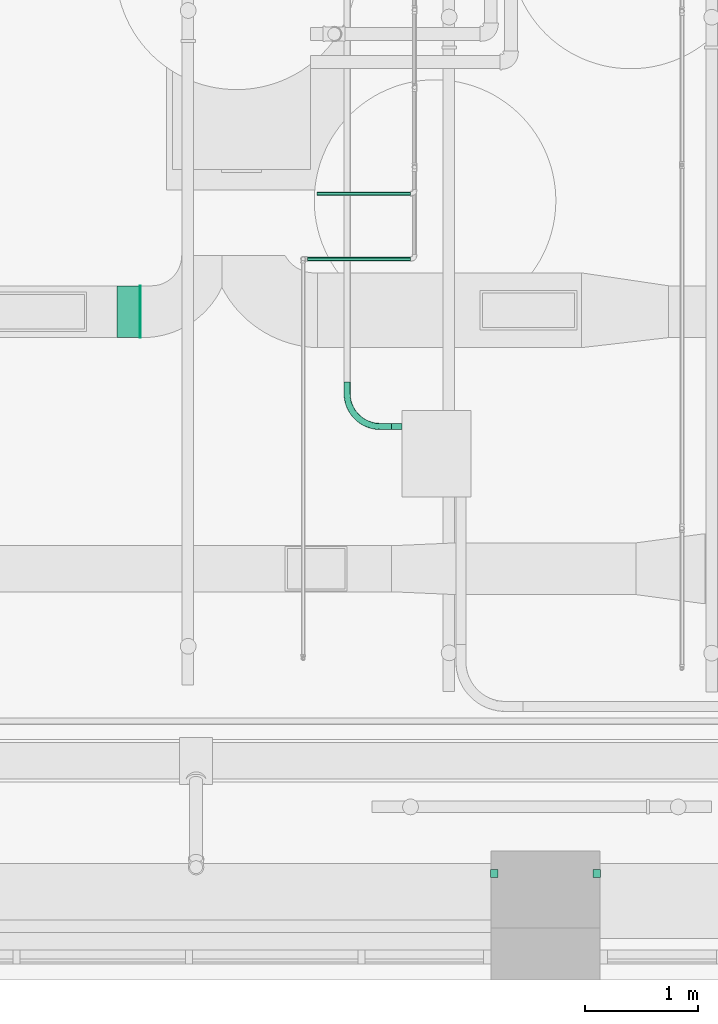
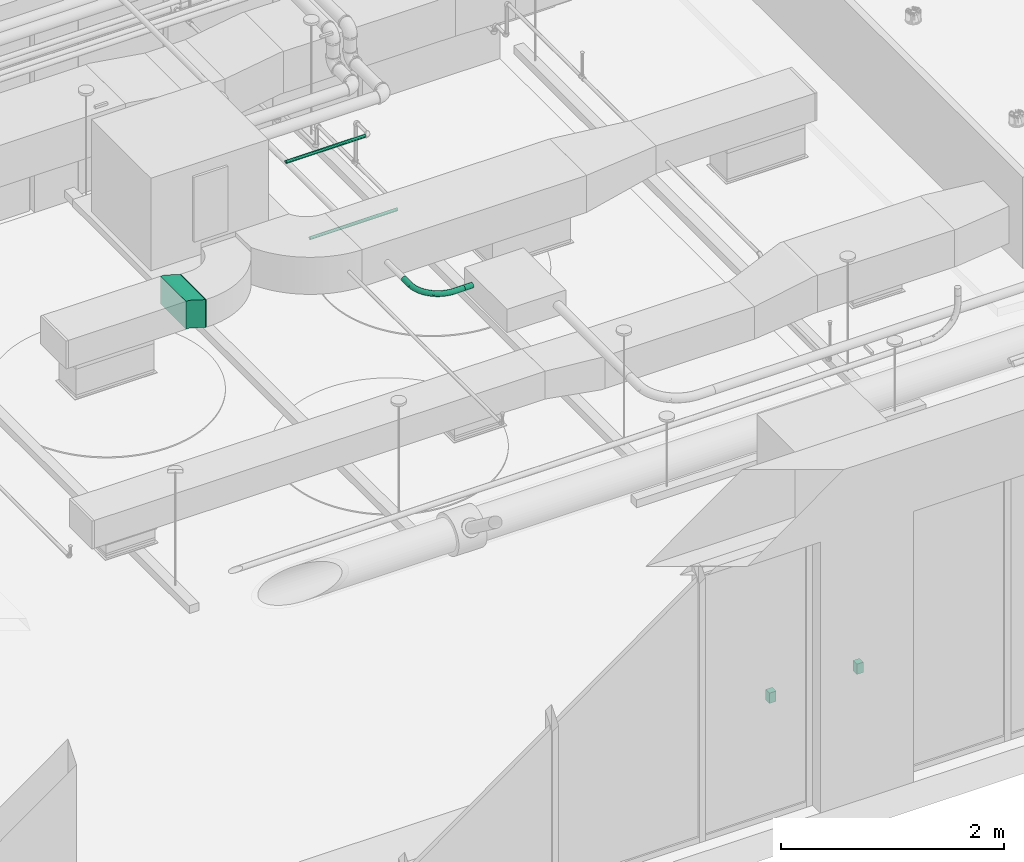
# One storey, part 40 of 108: 2 outlets, 2 pipe segments, 1 cable carrier fitting, 1 cable carrier segment, 1 duct fitting, 1 duct segment.
"""IFC4 building model written with IfcOpenShell, lengths in feet."""

from ifc_helpers import new_model, entity, si_unit, converted_unit, derived_unit, direction, frame, frame_2d, origin, origin_2d_with_axis, place, context, subcontext, project, spatial, polyline, rectangle, circle, outline, extrude, source, transform, mapped, type_object, type_shapes, element, save


model = new_model("IFC4")

# Units and contexts
model_context = context("Model", 3, precision=0.0001, world=origin(), true_north=direction((6.12303176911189e-17, 1.0)))
body_context = subcontext(model_context, "Body", "Model", "MODEL_VIEW")
ifc_project = project(units=[converted_unit("LENGTHUNIT", "FOOT", entity("IfcRatioMeasure", 0.3048), si_unit("LENGTHUNIT", "METRE"), dimensions=[1, 0, 0, 0, 0, 0, 0]), converted_unit("AREAUNIT", "SQUARE FOOT", entity("IfcRatioMeasure", 0.09290304), si_unit("AREAUNIT", "SQUARE_METRE"), dimensions=[2, 0, 0, 0, 0, 0, 0]), converted_unit("VOLUMEUNIT", "CUBIC FOOT", entity("IfcRatioMeasure", 0.028316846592), si_unit("VOLUMEUNIT", "CUBIC_METRE"), dimensions=[3, 0, 0, 0, 0, 0, 0]), converted_unit("PLANEANGLEUNIT", "DEGREE", entity("IfcRatioMeasure", 0.0174532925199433), si_unit("PLANEANGLEUNIT", "RADIAN"), dimensions=[0, 0, 0, 0, 0, 0, 0]), si_unit("MASSUNIT", "GRAM", prefix="KILO"), derived_unit("MASSDENSITYUNIT", [(si_unit("MASSUNIT", "GRAM", prefix="KILO"), 1), (si_unit("LENGTHUNIT", "METRE"), -3)]), si_unit("TIMEUNIT", "SECOND"), si_unit("FREQUENCYUNIT", "HERTZ"), si_unit("THERMODYNAMICTEMPERATUREUNIT", "DEGREE_CELSIUS"), derived_unit("THERMALTRANSMITTANCEUNIT", [(si_unit("MASSUNIT", "GRAM", prefix="KILO"), 1), (si_unit("THERMODYNAMICTEMPERATUREUNIT", "KELVIN"), -1), (si_unit("TIMEUNIT", "SECOND"), -3)]), derived_unit("VOLUMETRICFLOWRATEUNIT", [(si_unit("LENGTHUNIT", "METRE"), 3), (si_unit("TIMEUNIT", "SECOND"), -1)]), si_unit("ELECTRICCURRENTUNIT", "AMPERE"), si_unit("ELECTRICVOLTAGEUNIT", "VOLT"), si_unit("POWERUNIT", "WATT"), si_unit("FORCEUNIT", "NEWTON"), si_unit("ILLUMINANCEUNIT", "LUX"), si_unit("LUMINOUSFLUXUNIT", "LUMEN"), si_unit("LUMINOUSINTENSITYUNIT", "CANDELA"), derived_unit("USERDEFINED", [(si_unit("MASSUNIT", "GRAM", prefix="KILO"), -1), (si_unit("LENGTHUNIT", "METRE"), -2), (si_unit("TIMEUNIT", "SECOND"), 3), (si_unit("LUMINOUSFLUXUNIT", "LUMEN"), 1)]), derived_unit("LINEARVELOCITYUNIT", [(si_unit("LENGTHUNIT", "METRE"), 1), (si_unit("TIMEUNIT", "SECOND"), -1)]), si_unit("PRESSUREUNIT", "PASCAL"), derived_unit("USERDEFINED", [(si_unit("LENGTHUNIT", "METRE"), -2), (si_unit("MASSUNIT", "GRAM", prefix="KILO"), 1), (si_unit("TIMEUNIT", "SECOND"), -2)])], contexts=[model_context])

# Site, building, storey
site_placement = place(None, origin())
site = spatial("IfcSite", under=ifc_project, at=site_placement, Name="Default", CompositionType="ELEMENT")
building_placement = place(site_placement, origin())
building = spatial("IfcBuilding", under=site, at=building_placement, CompositionType="ELEMENT")
storey_placement = place(building_placement, frame((0.0, 0.0, 168.0)))
storey = spatial("IfcBuildingStorey", under=building, at=storey_placement, Name="Level 15", CompositionType="ELEMENT", Elevation=168.0)

# Outlets
outlet_type = type_object("IfcOutletType", Name="Duplex-Standard 2", PredefinedType="POWEROUTLET")
shared_shape_1 = source(origin(), body_context, "Body", "SweptSolid", [
    extrude(rectangle(XDim=0.229166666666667, YDim=0.375000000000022, at=origin_2d_with_axis()), frame((0.0, 0.0, -0.208333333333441), z_axis=(0.0, 0.0, 1.0), x_axis=(-1.0, 0.0, 0.0)), (0.0, 0.0, 1.0), 0.208333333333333),
    extrude(rectangle(XDim=0.229166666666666, YDim=0.375000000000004, at=origin_2d_with_axis()), frame((0.0, 0.0, 0.0), z_axis=(0.0, 0.0, 1.0), x_axis=(-1.0, 0.0, 0.0)), (0.0, 0.0, 1.0), 0.015625),
])
type_shapes(outlet_type, [shared_shape_1])
for number, where, z_axis, x_axis, name in (
    (1, (-31.2965067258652, -20.0157690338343, 2.3333333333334), (-1.0, 0.0, 0.0), (0.0, -1.0, 0.0), "Power-Recessed-All2:Duplex-Standard 2"),
    (2, (-28.1312015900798, -20.0157690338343, 2.3333333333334), (1.0, 0.0, 0.0), (0.0, 1.0, 0.0), "Power-Recessed-All2:Duplex-Standard 2"),
):
    element("IfcOutlet", number, at=place(storey_placement, frame(where, z_axis=z_axis, x_axis=x_axis)), inside=storey, type_object=outlet_type, Name=name, ObjectType="Power-Recessed-All2:Duplex-Standard 2", PredefinedType="POWEROUTLET", context=body_context, shape_type="MappedRepresentation", body=[
        mapped(shared_shape_1, transform((0.0, 0.0, 0.0), scale=1.0)),
    ])

# Duct segment
duct_segment_type = type_object("IfcDuctSegmentType", Name="Rectangular Duct:Square Throat Elbows / S&D", PredefinedType="NOTDEFINED")
duct_segment_placement = place(storey_placement, frame((-41.4701757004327, -4.48331935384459, 9.75000000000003)))
element("IfcDuctSegment", 3, at=duct_segment_placement, inside=storey, type_object=duct_segment_type, Name="Rectangular Duct:Square Throat Elbows / S&D", ObjectType="Rectangular Duct:Square Throat Elbows / S&D", PredefinedType="NOTDEFINED", context=body_context, shape_type="SweptSolid", body=[
    extrude(rectangle(XDim=0.025752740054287, YDim=1.5, at=origin_2d_with_axis()), frame((0.0128763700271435, 0.75, 0.0), z_axis=(0.0, 0.0, 1.0), x_axis=(-1.0, 0.0, 0.0)), (0.0, 0.0, 1.0), 1.0),
])

# Pipe segments
pipe_segment_type = type_object("IfcPipeSegmentType", Name="Pipe Types:Fire Prot Sched 10 Main", PredefinedType="NOTDEFINED")
pipe_segment_1_placement = place(storey_placement, frame((-36.6136693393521, -2.26285329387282, 9.81497450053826)))
element("IfcPipeSegment", 4, at=pipe_segment_1_placement, inside=storey, type_object=pipe_segment_type, Name="Pipe Types:Fire Prot Sched 10 Main", ObjectType="Pipe Types:Fire Prot Sched 10 Main", PredefinedType="NOTDEFINED", context=body_context, shape_type="SweptSolid", body=[
    extrude(circle(Radius=0.0547916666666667, at=origin_2d_with_axis()), frame((0.0, 0.0600254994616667, 0.0600254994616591), z_axis=(1.0, 0.0, 0.0), x_axis=(0.0, 1.0, 0.0)), (0.0, 0.0, 1.0), 2.98502612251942),
])
pipe_segment_2_placement = place(storey_placement, frame((-36.340765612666, -0.374939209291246, 11.3149745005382)))
element("IfcPipeSegment", 5, at=pipe_segment_2_placement, inside=storey, type_object=pipe_segment_type, Name="Pipe Types:Fire Prot Sched 10 Main", ObjectType="Pipe Types:Fire Prot Sched 10 Main", PredefinedType="NOTDEFINED", context=body_context, shape_type="SweptSolid", body=[
    extrude(circle(Radius=0.0547916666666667, at=frame_2d((-5.77315972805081e-15, 0.0), x_axis=(1.0, 0.0))), frame((0.0, 0.0600254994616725, 0.0600254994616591), z_axis=(1.0, 0.0, 0.0), x_axis=(0.0, 1.0, 0.0)), (0.0, 0.0, 1.0), 2.71212239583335),
])

# Cable carrier segment
cable_carrier_segment_type = type_object("IfcCableCarrierSegmentType", Name="Conduit with Fittings:Conduit", PredefinedType="NOTDEFINED")
cable_carrier_segment_placement = place(storey_placement, frame((-34.1704117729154, -7.15650778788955, 10.0803078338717)))
element("IfcCableCarrierSegment", 6, at=cable_carrier_segment_placement, inside=storey, type_object=cable_carrier_segment_type, Name="Conduit with Fittings:Conduit", ObjectType="Conduit with Fittings:Conduit", PredefinedType="NOTDEFINED", context=body_context, shape_type="SweptSolid", body=[
    extrude(circle(Radius=0.0915416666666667, at=frame_2d((8.88178419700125e-16, 0.0), x_axis=(1.0, 0.0))), frame((0.0, 0.0967754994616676, 0.0967754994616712), z_axis=(1.0, 0.0, 0.0), x_axis=(0.0, -1.0, 0.0)), (0.0, 0.0, 1.0), 0.291666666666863),
])

# Cable carrier fitting
cable_carrier_fitting_type = type_object("IfcCableCarrierFittingType", Name="Standard", PredefinedType="NOTDEFINED")
cartesian_point_1 = entity("IfcCartesianPoint", [-1.29166666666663, -0.0915416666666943, 0.0])
vertex_point_1 = entity("IfcVertexPoint", cartesian_point_1)
cartesian_point_2 = entity("IfcCartesianPoint", [-1.29166666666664, 0.091541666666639, 0.0])
vertex_point_2 = entity("IfcVertexPoint", cartesian_point_2)
cartesian_point_3 = entity("IfcCartesianPoint", [-1.29166666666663, 0.0, 0.0])
ifc_direction_1 = entity("IfcDirection", [-1.0, 0.0, 0.0])
ifc_direction_2 = entity("IfcDirection", [0.0, 1.0, 0.0])
edge_curve_1 = entity("IfcEdgeCurve", vertex_point_1, vertex_point_2, entity("IfcTrimmedCurve", entity("IfcCircle", entity("IfcAxis2Placement3D", cartesian_point_3, ifc_direction_1, ifc_direction_2), 0.0915416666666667), [cartesian_point_1], [cartesian_point_2], True, "CARTESIAN"), True)
edge_curve_2 = entity("IfcEdgeCurve", vertex_point_2, vertex_point_1, entity("IfcTrimmedCurve", entity("IfcCircle", entity("IfcAxis2Placement3D", cartesian_point_3, ifc_direction_1, ifc_direction_2), 0.0915416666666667), [cartesian_point_2], [cartesian_point_1], True, "CARTESIAN"), True)
ifc_direction_3 = entity("IfcDirection", [0.0, 0.0, 1.0])
cartesian_point_4 = entity("IfcCartesianPoint", [-0.958333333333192, -0.0915416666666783, 0.0])
vertex_point_3 = entity("IfcVertexPoint", cartesian_point_4)
edge_curve_3 = entity("IfcEdgeCurve", vertex_point_1, vertex_point_3, entity("IfcTrimmedCurve", entity("IfcLine", cartesian_point_1, entity("IfcVector", entity("IfcDirection", [1.0, 0.0, 0.0]), 1.0)), [cartesian_point_1], [cartesian_point_4], True, "CARTESIAN"), True)
cartesian_point_5 = entity("IfcCartesianPoint", [-0.958333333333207, 0.0915416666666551, 0.0])
vertex_point_4 = entity("IfcVertexPoint", cartesian_point_5)
cartesian_point_6 = entity("IfcCartesianPoint", [-0.958333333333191, 0.0, 0.0])
edge_curve_4 = entity("IfcEdgeCurve", vertex_point_3, vertex_point_4, entity("IfcTrimmedCurve", entity("IfcCircle", entity("IfcAxis2Placement3D", cartesian_point_6, ifc_direction_1, ifc_direction_2), 0.0915416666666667), [cartesian_point_4], [cartesian_point_5], True, "CARTESIAN"), True)
edge_curve_5 = entity("IfcEdgeCurve", vertex_point_4, vertex_point_2, entity("IfcTrimmedCurve", entity("IfcLine", cartesian_point_2, entity("IfcVector", ifc_direction_1, 1.0)), [cartesian_point_5], [cartesian_point_2], True, "CARTESIAN"), True)
edge_curve_6 = entity("IfcEdgeCurve", vertex_point_4, vertex_point_3, entity("IfcTrimmedCurve", entity("IfcCircle", entity("IfcAxis2Placement3D", cartesian_point_6, ifc_direction_1, ifc_direction_2), 0.0915416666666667), [cartesian_point_5], [cartesian_point_4], True, "CARTESIAN"), True)
cartesian_point_7 = entity("IfcCartesianPoint", [-0.0915416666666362, 0.958333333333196, 0.0])
vertex_point_5 = entity("IfcVertexPoint", cartesian_point_7)
cartesian_point_8 = entity("IfcCartesianPoint", [-0.958333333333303, 0.958333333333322, 0.0])
ifc_direction_4 = entity("IfcDirection", [0.0, -1.0, 0.0])
edge_curve_7 = entity("IfcEdgeCurve", vertex_point_5, vertex_point_4, entity("IfcTrimmedCurve", entity("IfcCircle", entity("IfcAxis2Placement3D", cartesian_point_8, entity("IfcDirection", [0.0, 0.0, -1.0]), ifc_direction_4), 0.866791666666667), [cartesian_point_7], [cartesian_point_5], True, "CARTESIAN"), True)
cartesian_point_9 = entity("IfcCartesianPoint", [0.0915416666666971, 0.958333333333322, 0.0])
vertex_point_6 = entity("IfcVertexPoint", cartesian_point_9)
edge_curve_8 = entity("IfcEdgeCurve", vertex_point_3, vertex_point_6, entity("IfcTrimmedCurve", entity("IfcCircle", entity("IfcAxis2Placement3D", cartesian_point_8, ifc_direction_3, ifc_direction_4), 1.049875), [cartesian_point_4], [cartesian_point_9], True, "CARTESIAN"), True)
cartesian_point_10 = entity("IfcCartesianPoint", [0.0, 0.958333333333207, 0.0])
edge_curve_9 = entity("IfcEdgeCurve", vertex_point_6, vertex_point_5, entity("IfcTrimmedCurve", entity("IfcCircle", entity("IfcAxis2Placement3D", cartesian_point_10, ifc_direction_4, ifc_direction_1), 0.0915416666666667), [cartesian_point_9], [cartesian_point_7], True, "CARTESIAN"), True)
edge_curve_10 = entity("IfcEdgeCurve", vertex_point_5, vertex_point_6, entity("IfcTrimmedCurve", entity("IfcCircle", entity("IfcAxis2Placement3D", cartesian_point_10, ifc_direction_4, ifc_direction_1), 0.0915416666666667), [cartesian_point_7], [cartesian_point_9], True, "CARTESIAN"), True)
cartesian_point_11 = entity("IfcCartesianPoint", [0.0915416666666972, 1.29166666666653, 0.0])
vertex_point_7 = entity("IfcVertexPoint", cartesian_point_11)
cartesian_point_12 = entity("IfcCartesianPoint", [-0.0915416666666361, 1.29166666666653, 0.0])
vertex_point_8 = entity("IfcVertexPoint", cartesian_point_12)
cartesian_point_13 = entity("IfcCartesianPoint", [0.0, 1.29166666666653, 0.0])
edge_curve_11 = entity("IfcEdgeCurve", vertex_point_7, vertex_point_8, entity("IfcTrimmedCurve", entity("IfcCircle", entity("IfcAxis2Placement3D", cartesian_point_13, ifc_direction_2, ifc_direction_1), 0.0915416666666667), [cartesian_point_11], [cartesian_point_12], True, "CARTESIAN"), True)
edge_curve_12 = entity("IfcEdgeCurve", vertex_point_8, vertex_point_7, entity("IfcTrimmedCurve", entity("IfcCircle", entity("IfcAxis2Placement3D", cartesian_point_13, ifc_direction_2, ifc_direction_1), 0.0915416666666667), [cartesian_point_12], [cartesian_point_11], True, "CARTESIAN"), True)
edge_curve_13 = entity("IfcEdgeCurve", vertex_point_6, vertex_point_7, entity("IfcTrimmedCurve", entity("IfcLine", cartesian_point_9, entity("IfcVector", ifc_direction_2, 1.0)), [cartesian_point_9], [cartesian_point_11], True, "CARTESIAN"), True)
edge_curve_14 = entity("IfcEdgeCurve", vertex_point_8, vertex_point_5, entity("IfcTrimmedCurve", entity("IfcLine", cartesian_point_7, entity("IfcVector", ifc_direction_4, 1.0)), [cartesian_point_12], [cartesian_point_7], True, "CARTESIAN"), True)
shared_shape_2 = source(origin(), body_context, "Body", "AdvancedBrep", [
    entity("IfcAdvancedBrep", entity("IfcClosedShell", [entity("IfcAdvancedFace", [entity("IfcFaceOuterBound", entity("IfcEdgeLoop", [entity("IfcOrientedEdge", None, None, edge_curve_1, True), entity("IfcOrientedEdge", None, None, edge_curve_2, True)]), True)], entity("IfcPlane", entity("IfcAxis2Placement3D", cartesian_point_3, ifc_direction_1, ifc_direction_3)), True), entity("IfcAdvancedFace", [entity("IfcFaceOuterBound", entity("IfcEdgeLoop", [entity("IfcOrientedEdge", None, None, edge_curve_1, False), entity("IfcOrientedEdge", None, None, edge_curve_3, True), entity("IfcOrientedEdge", None, None, edge_curve_4, True), entity("IfcOrientedEdge", None, None, edge_curve_5, True)]), True)], entity("IfcCylindricalSurface", entity("IfcAxis2Placement3D", cartesian_point_3, ifc_direction_1, ifc_direction_2), 0.0915416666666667), True), entity("IfcAdvancedFace", [entity("IfcFaceOuterBound", entity("IfcEdgeLoop", [entity("IfcOrientedEdge", None, None, edge_curve_2, False), entity("IfcOrientedEdge", None, None, edge_curve_5, False), entity("IfcOrientedEdge", None, None, edge_curve_6, True), entity("IfcOrientedEdge", None, None, edge_curve_3, False)]), True)], entity("IfcCylindricalSurface", entity("IfcAxis2Placement3D", cartesian_point_3, ifc_direction_1, ifc_direction_2), 0.0915416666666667), True), entity("IfcAdvancedFace", [entity("IfcFaceOuterBound", entity("IfcEdgeLoop", [entity("IfcOrientedEdge", None, None, edge_curve_7, True), entity("IfcOrientedEdge", None, None, edge_curve_4, False), entity("IfcOrientedEdge", None, None, edge_curve_8, True), entity("IfcOrientedEdge", None, None, edge_curve_9, True)]), True)], entity("IfcSurfaceOfRevolution", entity("IfcArbitraryOpenProfileDef", "CURVE", None, entity("IfcTrimmedCurve", entity("IfcTrimmedCurve", entity("IfcCircle", entity("IfcAxis2Placement3D", cartesian_point_10, ifc_direction_4, ifc_direction_1), 0.0915416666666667), [cartesian_point_9], [cartesian_point_7], True, "CARTESIAN"), [cartesian_point_9], [cartesian_point_7], True, "CARTESIAN")), None, entity("IfcAxis1Placement", cartesian_point_8, ifc_direction_3)), True), entity("IfcAdvancedFace", [entity("IfcFaceOuterBound", entity("IfcEdgeLoop", [entity("IfcOrientedEdge", None, None, edge_curve_8, False), entity("IfcOrientedEdge", None, None, edge_curve_6, False), entity("IfcOrientedEdge", None, None, edge_curve_7, False), entity("IfcOrientedEdge", None, None, edge_curve_10, True)]), True)], entity("IfcSurfaceOfRevolution", entity("IfcArbitraryOpenProfileDef", "CURVE", None, entity("IfcTrimmedCurve", entity("IfcTrimmedCurve", entity("IfcCircle", entity("IfcAxis2Placement3D", cartesian_point_10, ifc_direction_4, ifc_direction_1), 0.0915416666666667), [cartesian_point_7], [cartesian_point_9], True, "CARTESIAN"), [cartesian_point_7], [cartesian_point_9], True, "CARTESIAN")), None, entity("IfcAxis1Placement", cartesian_point_8, ifc_direction_3)), True), entity("IfcAdvancedFace", [entity("IfcFaceOuterBound", entity("IfcEdgeLoop", [entity("IfcOrientedEdge", None, None, edge_curve_11, True), entity("IfcOrientedEdge", None, None, edge_curve_12, True)]), True)], entity("IfcPlane", entity("IfcAxis2Placement3D", cartesian_point_13, ifc_direction_2, ifc_direction_3)), True), entity("IfcAdvancedFace", [entity("IfcFaceOuterBound", entity("IfcEdgeLoop", [entity("IfcOrientedEdge", None, None, edge_curve_9, False), entity("IfcOrientedEdge", None, None, edge_curve_13, True), entity("IfcOrientedEdge", None, None, edge_curve_12, False), entity("IfcOrientedEdge", None, None, edge_curve_14, True)]), True)], entity("IfcCylindricalSurface", entity("IfcAxis2Placement3D", cartesian_point_10, ifc_direction_4, ifc_direction_1), 0.0915416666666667), True), entity("IfcAdvancedFace", [entity("IfcFaceOuterBound", entity("IfcEdgeLoop", [entity("IfcOrientedEdge", None, None, edge_curve_10, False), entity("IfcOrientedEdge", None, None, edge_curve_14, False), entity("IfcOrientedEdge", None, None, edge_curve_11, False), entity("IfcOrientedEdge", None, None, edge_curve_13, False)]), True)], entity("IfcCylindricalSurface", entity("IfcAxis2Placement3D", cartesian_point_10, ifc_direction_4, ifc_direction_1), 0.0915416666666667), True)])),
])
type_shapes(cable_carrier_fitting_type, [shared_shape_2])
cable_carrier_fitting_placement = place(storey_placement, frame((-35.4620784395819, -7.05973228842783, 10.1770833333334), z_axis=(0.0, 0.0, 1.0), x_axis=(0.0, -1.0, 0.0)))
element("IfcCableCarrierFitting", 7, at=cable_carrier_fitting_placement, inside=storey, type_object=cable_carrier_fitting_type, Name="Conduit Elbow - Steel:Standard", ObjectType="Conduit Elbow - Steel:Standard", PredefinedType="NOTDEFINED", context=body_context, shape_type="MappedRepresentation", body=[
    mapped(shared_shape_2, transform((0.0, 0.0, 0.0), scale=1.0)),
])

# Duct fitting
duct_fitting_type = type_object("IfcDuctFittingType", Name="Standard", PredefinedType="NOTDEFINED")
shared_shape_3 = source(origin(), body_context, "Body", "SweptSolid", [
    extrude(rectangle(XDim=0.00260416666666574, YDim=1.5, at=frame_2d((5.55111512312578e-17, 0.0), x_axis=(1.0, 0.0))), frame((0.665364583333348, 0.0, -0.666666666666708), z_axis=(0.0, 0.0, 1.0), x_axis=(-1.0, 0.0, 0.0)), (0.0, 0.0, 1.0), 1.0),
    extrude(rectangle(XDim=0.125, YDim=1.5, at=origin_2d_with_axis()), frame((0.0625000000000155, 0.0, -0.500000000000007), z_axis=(0.0, 0.0, 1.0), x_axis=(-1.0, 0.0, 0.0)), (0.0, 0.0, 1.0), 1.00000000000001),
    extrude(outline(polyline([(-0.429811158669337, -0.477689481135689), (0.13442829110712, -0.477689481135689), (0.429811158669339, 0.477689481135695), (-0.134428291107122, 0.477689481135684), (-0.429811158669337, -0.477689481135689)])), frame((0.394531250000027, -0.750000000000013, -0.0833333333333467), z_axis=(0.0, 1.0, 0.0), x_axis=(-0.955378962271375, 0.0, 0.295382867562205)), (0.0, 0.0, 1.0), 1.5),
])
type_shapes(duct_fitting_type, [shared_shape_3])
duct_fitting_placement = place(storey_placement, frame((-42.1368423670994, -3.73331935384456, 10.4166666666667)))
element("IfcDuctFitting", 8, at=duct_fitting_placement, inside=storey, type_object=duct_fitting_type, Name="Rectangular Length Eccentric Transition - DTL:Standard", ObjectType="Rectangular Length Eccentric Transition - DTL:Standard", PredefinedType="NOTDEFINED", context=body_context, shape_type="MappedRepresentation", body=[
    mapped(shared_shape_3, transform((0.0, 0.0, 0.0), scale=1.0)),
])

save(model, "model.ifc")
